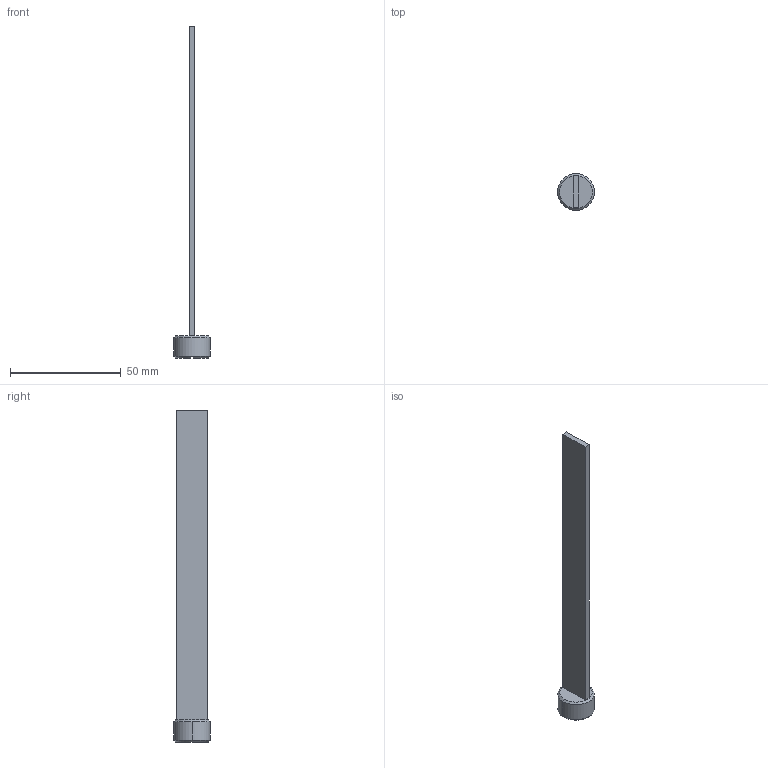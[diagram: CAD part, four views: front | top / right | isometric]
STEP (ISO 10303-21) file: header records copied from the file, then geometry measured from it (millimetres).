
FILE_DESCRIPTION (( 'STEP AP214' ), '1' );
FILE_NAME ('BruyRubio_BR965-3_8-150.STEP', '2019-12-17T14:41:30', ( '' ), ( '' ), 'SwSTEP 2.0', 'SolidWorks 2017', '' );
FILE_SCHEMA (( 'AUTOMOTIVE_DESIGN' ));
Length unit declared in the file: millimetre
Products named in the file (1): BruyRubio_BR965-3_8-150
Bounding box: 16.66 x 16.66 x 150 mm (x, y, z)
Volume: 7014.9 mm3; surface area: 6740.5 mm2
Topology: 3 solids, 3 shells, 38 faces, 94 edges, 60 vertices
Faces by surface type: plane 28, cylinder 6, cone 4
Entity records: 1594 total; most frequent: CARTESIAN_POINT 205, DIRECTION 190, ORIENTED_EDGE 188, EDGE_CURVE 94, VECTOR 68, LINE 68, AXIS2_PLACEMENT_3D 61, VERTEX_POINT 60
